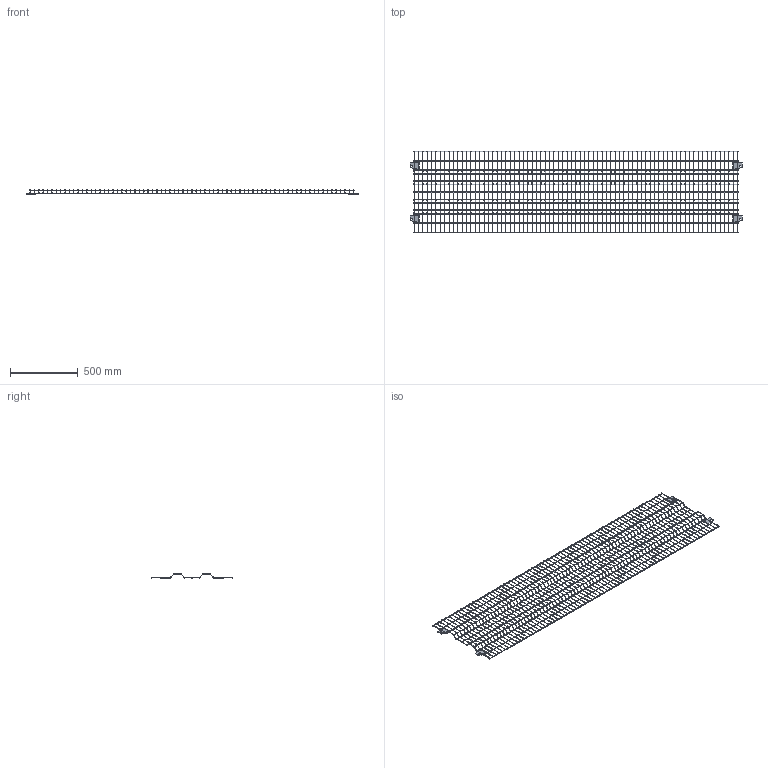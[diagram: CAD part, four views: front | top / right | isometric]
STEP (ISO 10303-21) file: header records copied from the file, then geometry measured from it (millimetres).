
FILE_DESCRIPTION (( 'STEP AP203' ), '1' );
FILE_NAME ('Frameless Panel 2400 x 600.STEP', '2023-09-15T16:49:29', ( '' ), ( '' ), 'SwSTEP 2.0', 'SolidWorks 2023', '' );
FILE_SCHEMA (( 'CONFIG_CONTROL_DESIGN' ));
Products named in the file (1): Frameless Panel 2400 x 600
Bounding box: 2456 x 600 x 31.95 mm (x, y, z)
Volume: 1037853.4 mm3; surface area: 1026522 mm2
Topology: 92 solids, 92 shells, 2966 faces, 5796 edges, 3014 vertices
Faces by surface type: cylinder 1554, torus 1200, plane 212
Entity records: 74753 total; most frequent: DIRECTION 15888, CARTESIAN_POINT 11777, ORIENTED_EDGE 11592, AXIS2_PLACEMENT_3D 7125, EDGE_CURVE 5796, CIRCLE 4158, VERTEX_POINT 3014, EDGE_LOOP 2966
